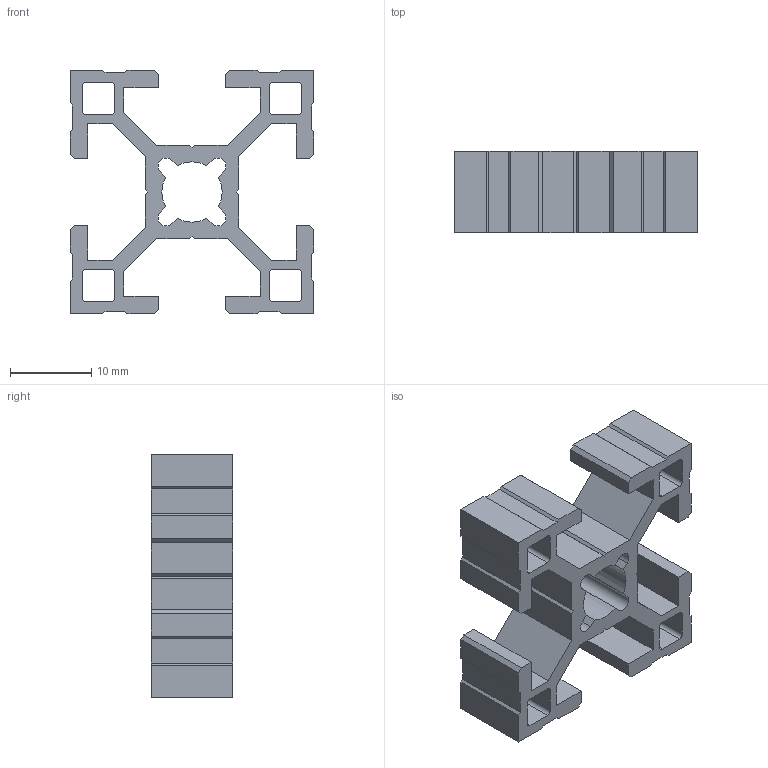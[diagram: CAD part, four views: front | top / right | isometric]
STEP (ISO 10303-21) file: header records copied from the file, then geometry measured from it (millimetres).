
FILE_DESCRIPTION((''),'2;1');
FILE_NAME('PR0300308','2002-12-27T',('Lipro doo'),('Lipro d.o.o.'),'PRO/ENGINEER BY PARAMETRIC TECHNOLOGY CORPORATION, 2001150','PRO/ENGINEER BY PARAMETRIC TECHNOLOGY CORPORATION, 2001150','');
FILE_SCHEMA(('CONFIG_CONTROL_DESIGN'));
Length unit declared in the file: millimetre
Products named in the file (1): PR0300308
Bounding box: 30 x 10 x 30 mm (x, y, z)
Volume: 2925.2 mm3; surface area: 3986.4 mm2
Topology: 1 solids, 1 shells, 146 faces, 432 edges, 288 vertices
Faces by surface type: plane 122, cylinder 24
Entity records: 4882 total; most frequent: CARTESIAN_POINT 866, ORIENTED_EDGE 864, DIRECTION 772, EDGE_CURVE 432, VECTOR 384, LINE 384, VERTEX_POINT 288, AXIS2_PLACEMENT_3D 194
